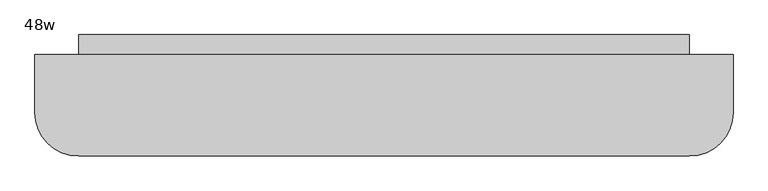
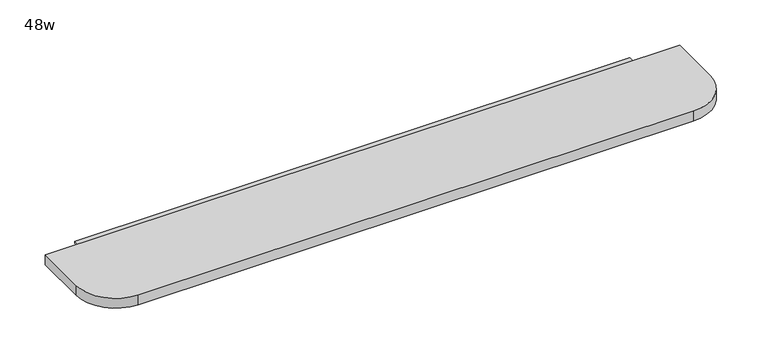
"""IFC4 building model written with IfcOpenShell, lengths in millimetres: furniture geometry, Haworth_Pergola_Accessory_TetheredLedge : 48w."""

from ifc_helpers import new_model, si_unit, point, frame, frame_2d, origin, place, context, project, spatial, polyline, circle_curve, trimmed, segment, composite_curve, outline, extrude, source, transform, mapped, element, save


def furniture_48w_25386db9(model_context):
    return source(origin(), model_context, "Body", "SweptSolid", [
        extrude(outline(composite_curve([segment(polyline([(617.8409467, 545.9364026), (617.8409467, 428.8582776)]), True, "CONTINUOUS"), segment(trimmed(circle_curve(frame_2d((598.7909467, 428.8582776)), 19.05), [point((617.8409467, 428.8582776))], [point((598.7909467, 409.8082776))], False, "CARTESIAN"), True, "CONTINUOUS"), segment(polyline([(598.7909467, 409.8082776), (-429.9090533, 409.8082776)]), True, "CONTINUOUS"), segment(trimmed(circle_curve(frame_2d((-429.9090533, 428.8582776)), 19.05), [point((-429.9090533, 409.8082776))], [point((-448.9590533, 428.8582776))], False, "CARTESIAN"), True, "CONTINUOUS"), segment(polyline([(-448.9590533, 428.8582776), (-448.9590533, 545.9364026), (617.8409467, 545.9364026)]), True, "CONTINUOUS")], self_intersect=False)), frame((0.0, 0.0, 996.35945), z_axis=(0.0, 0.0, 1.0), x_axis=(1.0, 0.0, 0.0)), (0.0, 0.0, 1.0), 3.96875),
        extrude(outline(composite_curve([segment(polyline([(694.0409467, 511.4082776), (694.0409467, 409.8082776)]), True, "CONTINUOUS"), segment(trimmed(circle_curve(frame_2d((617.8409467, 409.8082776)), 76.2), [point((694.0409467, 409.8082776))], [point((617.8409467, 333.6082776))], False, "CARTESIAN"), True, "CONTINUOUS"), segment(polyline([(617.8409467, 333.6082776), (-448.9590533, 333.6082776)]), True, "CONTINUOUS"), segment(trimmed(circle_curve(frame_2d((-448.9590533, 409.8082776)), 76.2), [point((-448.9590533, 333.6082776))], [point((-525.1590533, 409.8082776))], False, "CARTESIAN"), True, "CONTINUOUS"), segment(polyline([(-525.1590533, 409.8082776), (-525.1590533, 511.4082776), (694.0409467, 511.4082776)]), True, "CONTINUOUS")], self_intersect=False)), frame((0.0, 0.0, 1000.3282), z_axis=(0.0, 0.0, 1.0), x_axis=(1.0, 0.0, 0.0)), (0.0, 0.0, 1.0), 19.9429687),
    ])


if __name__ == "__main__":
    model = new_model("IFC4")
    model_context = context("Model", 3, world=origin())
    ifc_project = project(units=[si_unit("LENGTHUNIT", "METRE", prefix="MILLI")], contexts=[model_context])
    site = spatial("IfcSite", under=ifc_project)
    building = spatial("IfcBuilding", under=site)
    placement = place(None, origin())
    furniture_48w_shape = furniture_48w_25386db9(model_context)
    element("IfcFurniture", 1, ObjectType="Haworth_Pergola_Accessory_TetheredLedge : 48w", at=placement, inside=building, context=model_context, shape_type="MappedRepresentation", body=[
        mapped(furniture_48w_shape, transform((0.0, 0.0, 0.0), x_axis=(1.0, 0.0, 0.0), y_axis=(0.0, 1.0, 0.0), z_axis=(0.0, 0.0, 1.0))),
    ])
    save(model, "model.ifc")
